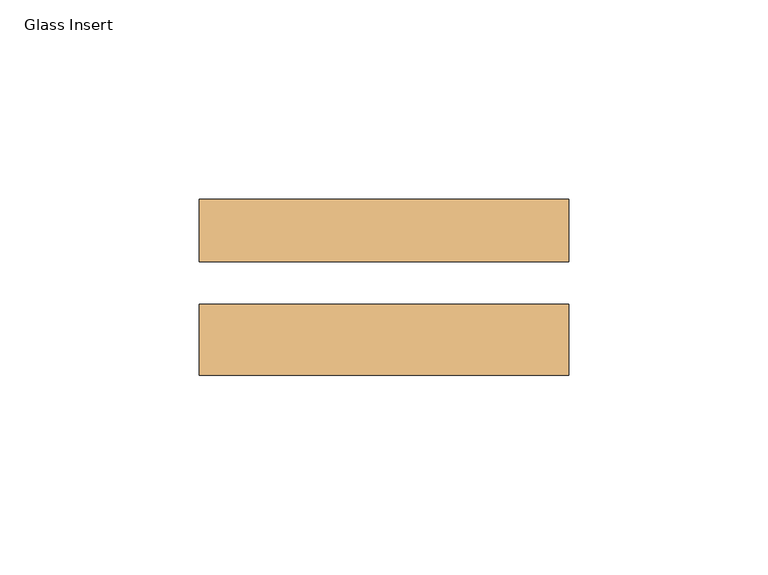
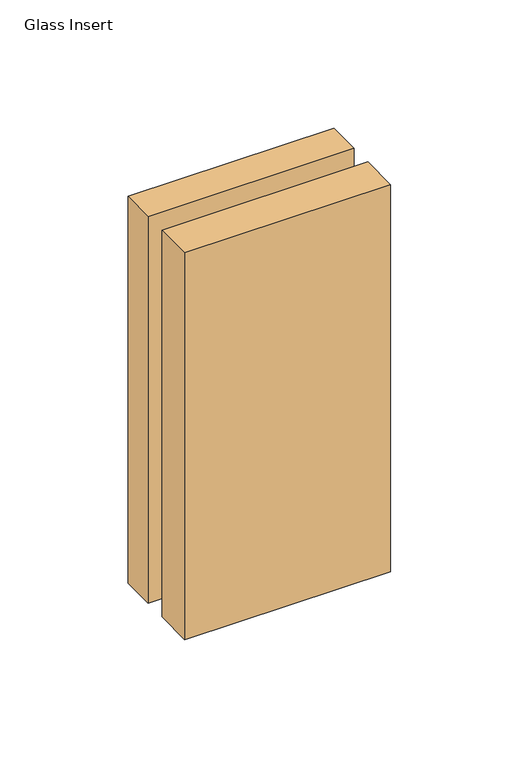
"""IFC4 building model written with IfcOpenShell, lengths in millimetres: door geometry, Door-Pivot_Low_Profile-Teknion-Altos-Left_Swing : Glass Insert."""

import ifcopenshell
import ifcopenshell.guid

model = None  # the IFC model being written
_history = None  # IfcOwnerHistory: only IFC2X3 demands one
_inside = {}  # id of a spatial element -> (the spatial element, [elements in it])
_under = {}  # id of a project, library or spatial element -> (it, [spatial elements below it])
_declared = {}  # id of a project -> (the project, [libraries it declares])
_typed = {}  # id of a type object -> (the type object, [elements of that type])
_made_of = {}  # id of a material, layer set ... -> (it, [elements and type objects made of it])


def new_model(schema):
    """Start an empty IFC model of exactly this schema.

    Asked for "IFC4X3", IfcOpenShell would pick the latest addendum, in which some entities
    have other attributes; the version numbers below select the first issue.
    IFC2X3 requires an IfcOwnerHistory on every rooted entity: one is made here for all.
    """
    global model, _history
    if schema == "IFC4X3":
        model = ifcopenshell.file(schema_version=(4, 3, 0, 0))
    else:
        model = ifcopenshell.file(schema=schema)
    _inside.clear()
    _under.clear()
    _declared.clear()
    _typed.clear()
    _made_of.clear()
    _history = None
    if model.schema == "IFC2X3":
        org = make("IfcOrganization", Name="unknown")
        user = make(
            "IfcPersonAndOrganization",
            ThePerson=make("IfcPerson", FamilyName="unknown"),
            TheOrganization=org,
        )
        app = make(
            "IfcApplication",
            ApplicationDeveloper=org,
            Version="unknown",
            ApplicationFullName="unknown",
            ApplicationIdentifier="unknown",
        )
        _history = make(
            "IfcOwnerHistory",
            OwningUser=user,
            OwningApplication=app,
            ChangeAction="ADDED",
            CreationDate=0,
        )
    return model


def make(cls, **values):
    """One entity of the class cls with the attributes given. An attribute that is None is left unset."""
    return model.create_entity(
        cls, **{name: value for name, value in values.items() if value is not None}
    )


def rooted(cls, **values):
    """An entity with a GlobalId (a new one), such as an element, a storey or a relation."""
    return make(cls, GlobalId=ifcopenshell.guid.new(), OwnerHistory=_history, **values)


def si_unit(unit_type, name, prefix=None):
    """IfcSIUnit, for example si_unit("LENGTHUNIT", "METRE", prefix="MILLI")."""
    return make("IfcSIUnit", UnitType=unit_type, Prefix=prefix, Name=name)


def assignment(units):
    """IfcUnitAssignment: the units of a project."""
    return None if units is None else make("IfcUnitAssignment", Units=units)


def point(xyz):
    """IfcCartesianPoint."""
    return None if xyz is None else make("IfcCartesianPoint", Coordinates=xyz)


def direction(xyz):
    """IfcDirection."""
    return None if xyz is None else make("IfcDirection", DirectionRatios=xyz)


def frame(location, z_axis=None, x_axis=None):
    """IfcAxis2Placement3D, a coordinate frame: its origin and axes. An axis left out is left unset."""
    return make(
        "IfcAxis2Placement3D",
        Location=point(location),
        Axis=direction(z_axis),
        RefDirection=direction(x_axis),
    )


def origin():
    """The frame at (0, 0, 0) with its axes left unset."""
    return frame((0.0, 0.0, 0.0))


def place(relative_to, where):
    """IfcLocalPlacement: puts the frame where relative to a parent placement (None: the world)."""
    return make(
        "IfcLocalPlacement", PlacementRelTo=relative_to, RelativePlacement=where
    )


def context(
    kind, dimensions, precision=None, world=None, true_north=None, identifier=None
):
    """IfcGeometricRepresentationContext, for example the 3D "Model" context."""
    return make(
        "IfcGeometricRepresentationContext",
        ContextIdentifier=identifier,
        ContextType=kind,
        CoordinateSpaceDimension=dimensions,
        Precision=precision,
        WorldCoordinateSystem=world,
        TrueNorth=true_north,
    )


def project(units=None, contexts=None):
    """IfcProject with its units and contexts."""
    return rooted(
        "IfcProject",
        Name="project",
        RepresentationContexts=contexts,
        UnitsInContext=assignment(units),
    )


def spatial(cls, under=None, at=None, **own):
    """A site, building, storey or space (cls), placed at a placement, below another one or the project."""
    s = rooted(cls, ObjectPlacement=at, **own)
    if under is not None:
        _under.setdefault(under.id(), (under, []))[1].append(s)
    return s


def polyline(points):
    """IfcPolyline through the points."""
    return make("IfcPolyline", Points=[point(p) for p in points])


def outline(outer, holes=None, kind="AREA"):
    """IfcArbitraryClosedProfileDef: a profile drawn as a closed curve; with holes, ...WithVoids."""
    if holes is None:
        return make("IfcArbitraryClosedProfileDef", ProfileType=kind, OuterCurve=outer)
    return make(
        "IfcArbitraryProfileDefWithVoids",
        ProfileType=kind,
        OuterCurve=outer,
        InnerCurves=holes,
    )


def extrude(swept, where, along, depth):
    """IfcExtrudedAreaSolid: the profile swept, set in the frame where, extruded along a direction by depth."""
    return make(
        "IfcExtrudedAreaSolid",
        SweptArea=swept,
        Position=where,
        ExtrudedDirection=direction(along),
        Depth=depth,
    )


def shape(context_of_items, identifier, shape_type, items):
    """IfcShapeRepresentation: the items that make up one representation, for example the "Body"."""
    return make(
        "IfcShapeRepresentation",
        ContextOfItems=context_of_items,
        RepresentationIdentifier=identifier,
        RepresentationType=shape_type,
        Items=items,
    )


def source(mapping_origin, context_of_items, identifier, shape_type, items):
    """IfcRepresentationMap: a shape defined once, which mapped items show again and again."""
    return make(
        "IfcRepresentationMap",
        MappingOrigin=mapping_origin,
        MappedRepresentation=shape(context_of_items, identifier, shape_type, items),
    )


def transform(
    local_origin,
    x_axis=None,
    y_axis=None,
    z_axis=None,
    scale=None,
    scale2=None,
    scale3=None,
    uniform=True,
):
    """IfcCartesianTransformationOperator3D, or its non-uniform kind. x_axis, y_axis, z_axis: its Axis1, 2, 3."""
    if uniform:
        return make(
            "IfcCartesianTransformationOperator3D",
            Axis1=direction(x_axis),
            Axis2=direction(y_axis),
            LocalOrigin=point(local_origin),
            Scale=scale,
            Axis3=direction(z_axis),
        )
    return make(
        "IfcCartesianTransformationOperator3DnonUniform",
        Axis1=direction(x_axis),
        Axis2=direction(y_axis),
        LocalOrigin=point(local_origin),
        Scale=scale,
        Axis3=direction(z_axis),
        Scale2=scale2,
        Scale3=scale3,
    )


def mapped(mapping_source, mapping_target):
    """IfcMappedItem: shows the shape of a source again, moved by a transform."""
    return make(
        "IfcMappedItem", MappingSource=mapping_source, MappingTarget=mapping_target
    )


def made_of(thing, what):
    """Note that an element or type object is made of a material, layer set ...; save() writes the relation."""
    if what is not None:
        _made_of.setdefault(what.id(), (what, []))[1].append(thing)
    return thing


def element(
    cls,
    number,
    at=None,
    inside=None,
    cuts=None,
    type_object=None,
    material=None,
    context=None,
    identifier="Body",
    shape_type=None,
    held_by="IfcProductDefinitionShape",
    body=None,
    shapes=None,
    **own,
):
    """One element of the class cls, such as IfcWall. Its Tag is "e" and its number.

    at: its placement. inside: the storey or other place that contains it. cuts: it is an
    opening in that element (IfcRelVoidsElement). A single representation is given by context,
    identifier, shape_type and body (its items); several are given by shapes. held_by: the class
    of the entity that holds the representations. save() writes the other relations.
    """
    e = rooted(cls, Tag="e%d" % number, ObjectPlacement=at, **own)
    if body is not None:
        shapes = [shape(context, identifier, shape_type, body)]
    if shapes is not None:
        e.Representation = make(held_by, Representations=shapes)
    if inside is not None:
        _inside.setdefault(inside.id(), (inside, []))[1].append(e)
    if cuts is not None:
        rooted(
            "IfcRelVoidsElement", RelatingBuildingElement=cuts, RelatedOpeningElement=e
        )
    if type_object is not None:
        _typed.setdefault(type_object.id(), (type_object, []))[1].append(e)
    return made_of(e, material)


def aggregate(whole, parts):
    """IfcRelAggregates: a whole, such as a stair, and the parts it consists of."""
    return rooted("IfcRelAggregates", RelatingObject=whole, RelatedObjects=parts)


def save(model, path):
    """Write the relations noted so far, then the file.

    IfcRelAggregates (storeys below a building ...), IfcRelContainedInSpatialStructure (elements
    in a storey), IfcRelDefinesByType, IfcRelAssociatesMaterial and IfcRelDeclares: one each for
    every whole, place, type object, material and project.
    """
    for whole, parts in _under.values():
        aggregate(whole, parts)
    for where, things in _inside.values():
        rooted(
            "IfcRelContainedInSpatialStructure",
            RelatedElements=things,
            RelatingStructure=where,
        )
    for kind, things in _typed.values():
        rooted("IfcRelDefinesByType", RelatedObjects=things, RelatingType=kind)
    for what, things in _made_of.values():
        rooted("IfcRelAssociatesMaterial", RelatedObjects=things, RelatingMaterial=what)
    for by, libraries in _declared.values():
        rooted("IfcRelDeclares", RelatingContext=by, RelatedDefinitions=libraries)
    model.write(path)


def glass_insert_7eeb47b9(model_context):
    return source(origin(), model_context, "Body", "SweptSolid", [
        extrude(outline(polyline([(368.2801562, -31.1519545), (460.9901562, -31.1519545), (460.9901562, -48.9954545), (368.2801562, -48.9954545), (368.2801562, -31.1519545)])), frame((0.0, 0.0, 906.5514), z_axis=(0.0, 0.0, 1.0), x_axis=(1.0, 0.0, 0.0)), (0.0, 0.0, 1.0), 184.15),
        extrude(outline(polyline([(368.2801562, -4.8248545), (460.9901562, -4.8248545), (460.9901562, -20.5474545), (368.2801562, -20.5474545), (368.2801562, -4.8248545)])), frame((0.0, 0.0, 906.5514), z_axis=(0.0, 0.0, 1.0), x_axis=(1.0, 0.0, 0.0)), (0.0, 0.0, 1.0), 184.15),
    ])


if __name__ == "__main__":
    model = new_model("IFC4")
    model_context = context("Model", 3, world=origin())
    ifc_project = project(units=[si_unit("LENGTHUNIT", "METRE", prefix="MILLI")], contexts=[model_context])
    site = spatial("IfcSite", under=ifc_project)
    building = spatial("IfcBuilding", under=site)
    placement = place(None, origin())
    glass_insert_shape = glass_insert_7eeb47b9(model_context)
    element("IfcDoor", 1, ObjectType="Door-Pivot_Low_Profile-Teknion-Altos-Left_Swing : Glass Insert", at=placement, inside=building, context=model_context, shape_type="MappedRepresentation", body=[
        mapped(glass_insert_shape, transform((0.0, 0.0, 0.0), x_axis=(1.0, 0.0, 0.0), y_axis=(0.0, 1.0, 0.0), z_axis=(0.0, 0.0, 1.0))),
    ])
    save(model, "model.ifc")
